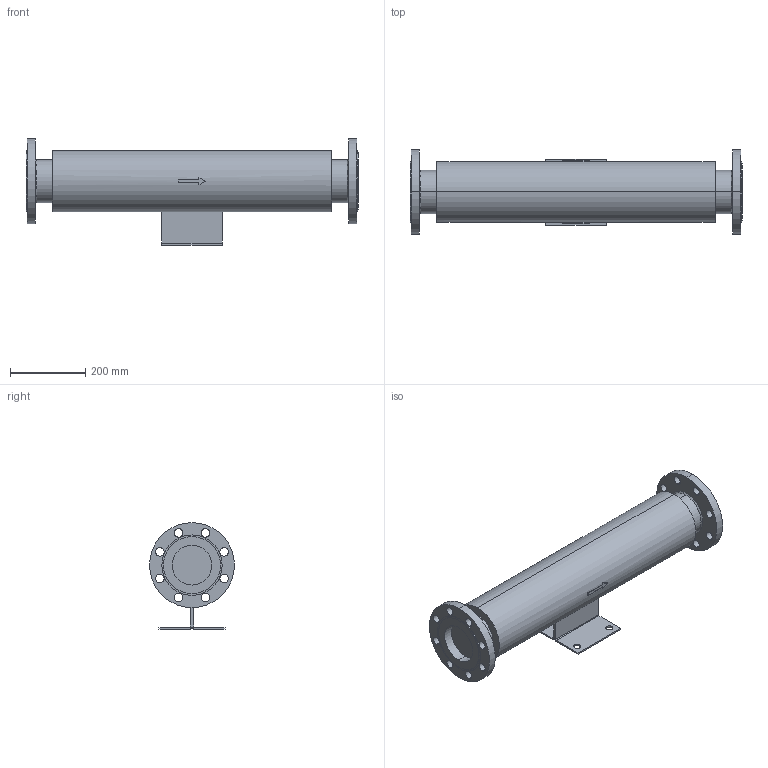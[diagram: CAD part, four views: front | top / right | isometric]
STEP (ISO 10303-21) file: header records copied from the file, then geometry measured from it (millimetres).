
FILE_DESCRIPTION( (''), '2;1');
FILE_NAME ('PC1027.9516.EB-12 100A_31883.stp','2025-07-30T09:29:59',(''),(''),'spGate 20.6.3 (****-****-****-****)','','');
FILE_SCHEMA (('AUTOMOTIVE_DESIGN'));
Length unit declared in the file: millimetre
Bounding box: 880 x 225 x 282.5 mm (x, y, z)
Volume: 17592709 mm3; surface area: 712950.2 mm2
Topology: 1 solids, 1 shells, 108 faces, 277 edges, 184 vertices
Faces by surface type: cylinder 66, plane 38, bspline 4
Entity records: 5581 total; most frequent: CARTESIAN_POINT 679, DIRECTION 561, ORIENTED_EDGE 554, COLOUR_RGB 386, PRESENTATION_STYLE_ASSIGNMENT 386, STYLED_ITEM 386, EDGE_CURVE 277, DRAUGHTING_PRE_DEFINED_CURVE_FONT 277
